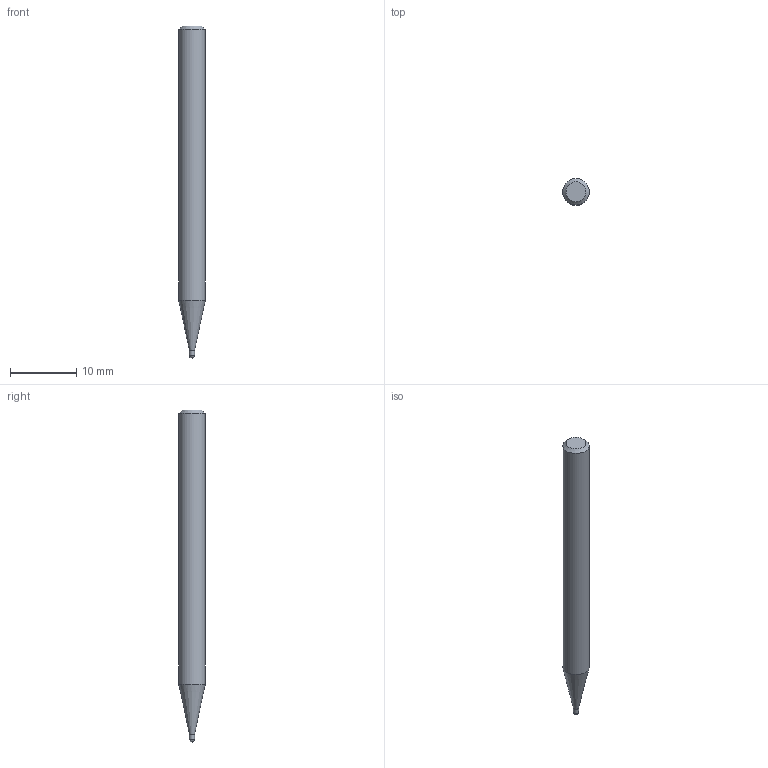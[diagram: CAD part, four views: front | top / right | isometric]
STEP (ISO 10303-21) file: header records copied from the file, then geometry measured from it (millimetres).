
FILE_DESCRIPTION((''),'2;1');
FILE_NAME('C:\Users\nsx150\AppData\Local\Temp\Mastercam 2021\98T1Q6BTT1\TEMP.step','2021-10-21T14:55:21',(''),(''),'STEP Write','Mastercam 2021 ... CNC Software, Inc.','');
FILE_SCHEMA(('AUTOMOTIVE_DESIGN'));
Length unit declared in the file: millimetre
Products named in the file (1): None
Bounding box: 4 x 4 x 50 mm (x, y, z)
Volume: 556.8 mm3; surface area: 589.3 mm2
Topology: 2 solids, 2 shells, 8 faces, 12 edges, 7 vertices
Faces by surface type: plane 3, cylinder 2, cone 2, sphere 1
Full cylindrical faces by diameter (mm): 0.8 x1, 4 x1
Entity records: 190 total; most frequent: DIRECTION 32, CARTESIAN_POINT 22, AXIS2_PLACEMENT_3D 16, ORIENTED_EDGE 12, EDGE_LOOP 12, STYLED_ITEM 11, ADVANCED_FACE 8, VERTEX_POINT 6
